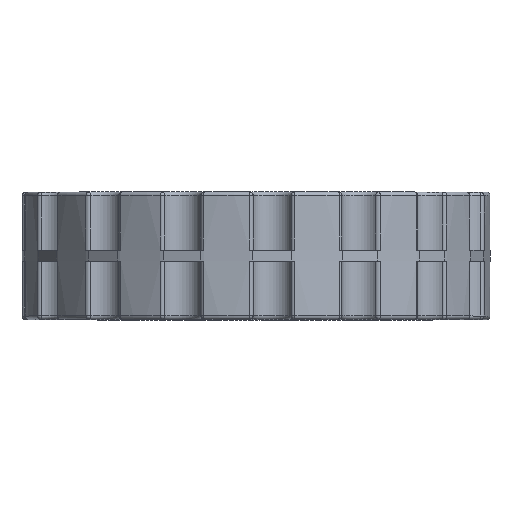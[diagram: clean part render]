
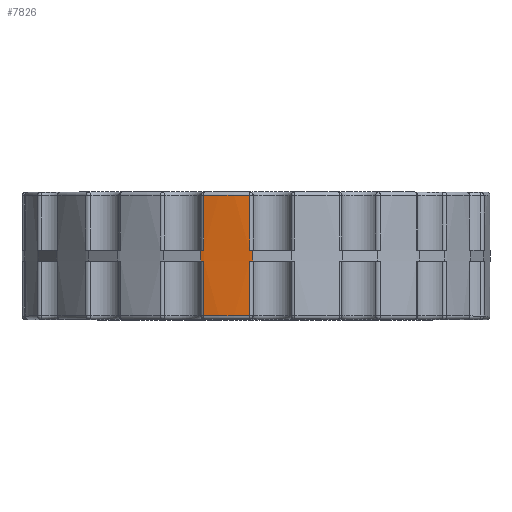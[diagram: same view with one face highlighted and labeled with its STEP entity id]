
A CAD part, top view. The second image highlights one B-rep face of the part: STEP entity #7826.
In plain terms, the highlighted cylindrical face has radius 64.25 mm (diameter 128.5 mm), a partial arc.
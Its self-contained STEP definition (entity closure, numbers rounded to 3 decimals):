
#204=CYLINDRICAL_SURFACE('',#8560,64.25);
#525=CIRCLE('',#8561,64.25);
#526=CIRCLE('',#8562,64.25);
#527=CIRCLE('',#8563,64.25);
#528=CIRCLE('',#8564,64.25);
#529=CIRCLE('',#8565,64.25);
#530=CIRCLE('',#8566,64.25);
#1378=ORIENTED_EDGE('',*,*,#3736,.T.);
#1379=ORIENTED_EDGE('',*,*,#3737,.T.);
#1380=ORIENTED_EDGE('',*,*,#3738,.T.);
#1381=ORIENTED_EDGE('',*,*,#3739,.T.);
#1382=ORIENTED_EDGE('',*,*,#3740,.T.);
#1383=ORIENTED_EDGE('',*,*,#3741,.T.);
#1384=ORIENTED_EDGE('',*,*,#3742,.F.);
#1385=ORIENTED_EDGE('',*,*,#3743,.T.);
#1386=ORIENTED_EDGE('',*,*,#3744,.T.);
#1387=ORIENTED_EDGE('',*,*,#3745,.T.);
#1388=ORIENTED_EDGE('',*,*,#3746,.T.);
#1389=ORIENTED_EDGE('',*,*,#3747,.T.);
#3736=EDGE_CURVE('',#4894,#4895,#5437,.T.);
#3737=EDGE_CURVE('',#4895,#4896,#525,.F.);
#3738=EDGE_CURVE('',#4896,#4897,#5438,.T.);
#3739=EDGE_CURVE('',#4897,#4898,#526,.F.);
#3740=EDGE_CURVE('',#4898,#4899,#5439,.F.);
#3741=EDGE_CURVE('',#4899,#4900,#527,.F.);
#3742=EDGE_CURVE('',#4901,#4900,#5440,.T.);
#3743=EDGE_CURVE('',#4901,#4902,#528,.T.);
#3744=EDGE_CURVE('',#4902,#4903,#5441,.F.);
#3745=EDGE_CURVE('',#4903,#4904,#529,.T.);
#3746=EDGE_CURVE('',#4904,#4905,#5442,.T.);
#3747=EDGE_CURVE('',#4905,#4894,#530,.T.);
#4894=VERTEX_POINT('',#13167);
#4895=VERTEX_POINT('',#13168);
#4896=VERTEX_POINT('',#13170);
#4897=VERTEX_POINT('',#13172);
#4898=VERTEX_POINT('',#13174);
#4899=VERTEX_POINT('',#13176);
#4900=VERTEX_POINT('',#13178);
#4901=VERTEX_POINT('',#13180);
#4902=VERTEX_POINT('',#13182);
#4903=VERTEX_POINT('',#13184);
#4904=VERTEX_POINT('',#13186);
#4905=VERTEX_POINT('',#13188);
#5437=LINE('',#13166,#6075);
#5438=LINE('',#13171,#6076);
#5439=LINE('',#13175,#6077);
#5440=LINE('',#13179,#6078);
#5441=LINE('',#13183,#6079);
#5442=LINE('',#13187,#6080);
#6075=VECTOR('',#10063,1000.);
#6076=VECTOR('',#10066,1000.);
#6077=VECTOR('',#10069,1000.);
#6078=VECTOR('',#10072,1000.);
#6079=VECTOR('',#10075,1000.);
#6080=VECTOR('',#10078,1000.);
#6558=EDGE_LOOP('',(#1378,#1379,#1380,#1381,#1382,#1383,#1384,#1385,#1386,
#1387,#1388,#1389));
#7094=FACE_BOUND('',#6558,.T.);
#7826=ADVANCED_FACE('',(#7094),#204,.T.);
#8560=AXIS2_PLACEMENT_3D('',#13165,#10061,#10062);
#8561=AXIS2_PLACEMENT_3D('',#13169,#10064,#10065);
#8562=AXIS2_PLACEMENT_3D('',#13173,#10067,#10068);
#8563=AXIS2_PLACEMENT_3D('',#13177,#10070,#10071);
#8564=AXIS2_PLACEMENT_3D('',#13181,#10073,#10074);
#8565=AXIS2_PLACEMENT_3D('',#13185,#10076,#10077);
#8566=AXIS2_PLACEMENT_3D('',#13189,#10079,#10080);
#10061=DIRECTION('',(0.,1.,0.));
#10062=DIRECTION('',(0.,0.,1.));
#10063=DIRECTION('',(0.,1.,0.));
#10064=DIRECTION('',(0.,1.,0.));
#10065=DIRECTION('',(0.,0.,1.));
#10066=DIRECTION('',(0.,1.,0.));
#10067=DIRECTION('',(0.,1.,0.));
#10068=DIRECTION('',(0.,0.,1.));
#10069=DIRECTION('',(0.,1.,0.));
#10070=DIRECTION('',(0.,1.,0.));
#10071=DIRECTION('',(0.,0.,1.));
#10072=DIRECTION('',(0.,1.,0.));
#10073=DIRECTION('',(0.,1.,0.));
#10074=DIRECTION('',(0.,0.,1.));
#10075=DIRECTION('',(0.,1.,0.));
#10076=DIRECTION('',(0.,1.,0.));
#10077=DIRECTION('',(0.,0.,1.));
#10078=DIRECTION('',(0.,1.,0.));
#10079=DIRECTION('',(0.,1.,0.));
#10080=DIRECTION('',(0.,0.,1.));
#13165=CARTESIAN_POINT('',(0.,-17.5,0.));
#13166=CARTESIAN_POINT('',(-0.929,-1.5,64.243));
#13167=CARTESIAN_POINT('',(-0.929,-1.5,64.243));
#13168=CARTESIAN_POINT('',(-0.929,1.5,64.243));
#13169=CARTESIAN_POINT('',(0.,1.5,0.));
#13170=CARTESIAN_POINT('',(-1.782,1.5,64.225));
#13171=CARTESIAN_POINT('',(-1.782,-17.5,64.225));
#13172=CARTESIAN_POINT('',(-1.782,16.5,64.225));
#13173=CARTESIAN_POINT('',(0.,16.5,0.));
#13174=CARTESIAN_POINT('',(-14.355,16.5,62.626));
#13175=CARTESIAN_POINT('',(-14.355,-17.5,62.626));
#13176=CARTESIAN_POINT('',(-14.355,1.5,62.626));
#13177=CARTESIAN_POINT('',(0.,1.5,0.));
#13178=CARTESIAN_POINT('',(-15.186,1.5,62.43));
#13179=CARTESIAN_POINT('',(-15.186,-1.5,62.43));
#13180=CARTESIAN_POINT('',(-15.186,-1.5,62.43));
#13181=CARTESIAN_POINT('',(0.,-1.5,0.));
#13182=CARTESIAN_POINT('',(-14.355,-1.5,62.626));
#13183=CARTESIAN_POINT('',(-14.355,-17.5,62.626));
#13184=CARTESIAN_POINT('',(-14.355,-16.5,62.626));
#13185=CARTESIAN_POINT('',(0.,-16.5,0.));
#13186=CARTESIAN_POINT('',(-1.782,-16.5,64.225));
#13187=CARTESIAN_POINT('',(-1.782,-17.5,64.225));
#13188=CARTESIAN_POINT('',(-1.782,-1.5,64.225));
#13189=CARTESIAN_POINT('',(0.,-1.5,0.));
